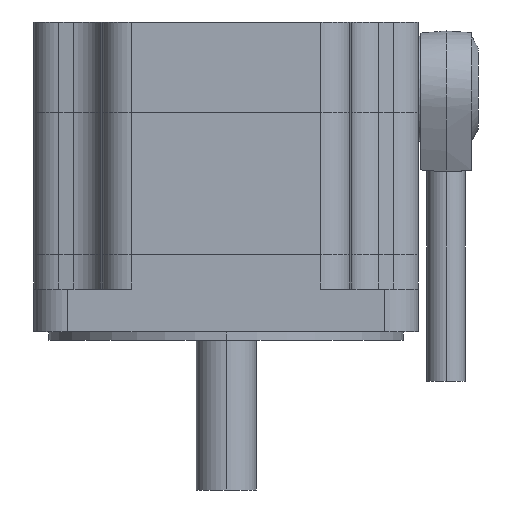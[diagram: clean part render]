
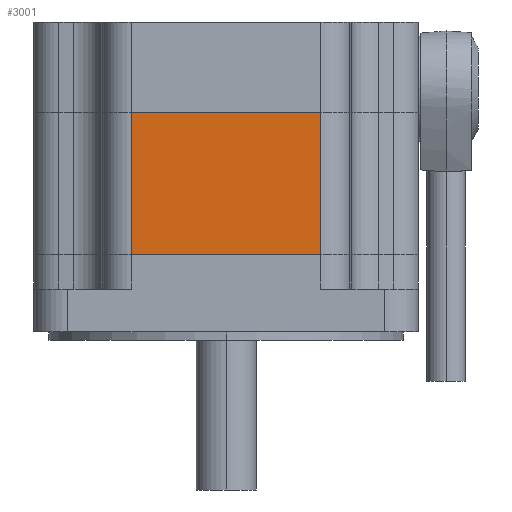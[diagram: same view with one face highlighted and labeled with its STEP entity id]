
A CAD part, left-side view. The second image highlights one B-rep face of the part: STEP entity #3001.
In plain terms, the highlighted planar face has unit normal (-1, 0, 0).
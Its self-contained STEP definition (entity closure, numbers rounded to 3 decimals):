
#7 = EDGE_CURVE ( 'NONE', #2261, #1155, #1010, .T. ) ;
#25 = ORIENTED_EDGE ( 'NONE', *, *, #7, .T. ) ;
#401 = LINE ( 'NONE', #1506, #2316 ) ;
#449 = EDGE_CURVE ( 'NONE', #3086, #1155, #2828, .T. ) ;
#485 = CARTESIAN_POINT ( 'NONE',  ( -45., 45., 51.4 ) ) ;
#729 = DIRECTION ( 'NONE',  ( 0., 1., 0. ) ) ;
#745 = DIRECTION ( 'NONE',  ( 1., 0., 0. ) ) ;
#773 = VECTOR ( 'NONE', #3229, 1000. ) ;
#852 = CARTESIAN_POINT ( 'NONE',  ( -45., 22.14, 18.1 ) ) ;
#1010 = LINE ( 'NONE', #2087, #2281 ) ;
#1155 = VERTEX_POINT ( 'NONE', #852 ) ;
#1237 = DIRECTION ( 'NONE',  ( 0., 0., -1. ) ) ;
#1486 = DIRECTION ( 'NONE',  ( 0., 1., 0. ) ) ;
#1506 = CARTESIAN_POINT ( 'NONE',  ( -45., -22.14, 72.5 ) ) ;
#1521 = VERTEX_POINT ( 'NONE', #2175 ) ;
#1530 = ORIENTED_EDGE ( 'NONE', *, *, #3470, .T. ) ;
#1574 = LINE ( 'NONE', #485, #773 ) ;
#1645 = EDGE_CURVE ( 'NONE', #1521, #3086, #401, .T. ) ;
#1689 = ORIENTED_EDGE ( 'NONE', *, *, #1645, .F. ) ;
#1722 = DIRECTION ( 'NONE',  ( 0., 0., -1. ) ) ;
#1844 = CARTESIAN_POINT ( 'NONE',  ( -45., 45., 10. ) ) ;
#2017 = EDGE_LOOP ( 'NONE', ( #2364, #1689, #1530, #25 ) ) ;
#2087 = CARTESIAN_POINT ( 'NONE',  ( -45., 22.14, 72.5 ) ) ;
#2175 = CARTESIAN_POINT ( 'NONE',  ( -45., -22.14, 51.4 ) ) ;
#2261 = VERTEX_POINT ( 'NONE', #2935 ) ;
#2281 = VECTOR ( 'NONE', #1722, 1000. ) ;
#2316 = VECTOR ( 'NONE', #1237, 1000. ) ;
#2364 = ORIENTED_EDGE ( 'NONE', *, *, #449, .F. ) ;
#2392 = FACE_OUTER_BOUND ( 'NONE', #2017, .T. ) ;
#2586 = AXIS2_PLACEMENT_3D ( 'NONE', #1844, #745, #729 ) ;
#2602 = CARTESIAN_POINT ( 'NONE',  ( -45., 45., 18.1 ) ) ;
#2747 = CARTESIAN_POINT ( 'NONE',  ( -45., -22.14, 18.1 ) ) ;
#2828 = LINE ( 'NONE', #2602, #3496 ) ;
#2935 = CARTESIAN_POINT ( 'NONE',  ( -45., 22.14, 51.4 ) ) ;
#3001 = ADVANCED_FACE ( 'NONE', ( #2392 ), #3439, .F. ) ;
#3086 = VERTEX_POINT ( 'NONE', #2747 ) ;
#3229 = DIRECTION ( 'NONE',  ( 0., 1., 0. ) ) ;
#3439 = PLANE ( 'NONE',  #2586 ) ;
#3470 = EDGE_CURVE ( 'NONE', #1521, #2261, #1574, .T. ) ;
#3496 = VECTOR ( 'NONE', #1486, 1000. ) ;
